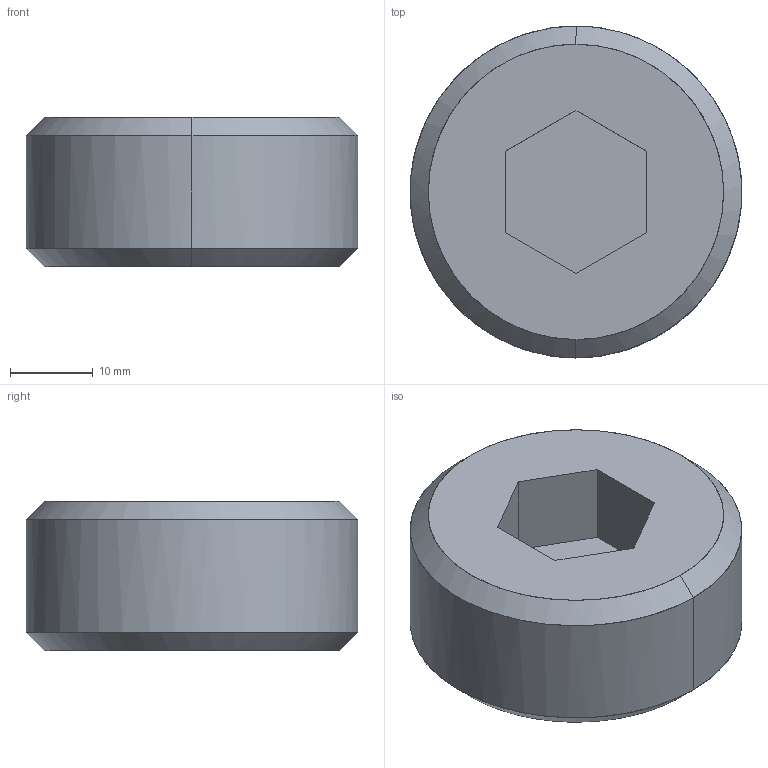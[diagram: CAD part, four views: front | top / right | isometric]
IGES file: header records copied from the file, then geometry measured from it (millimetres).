
Global section: file name: E:\UnigraphicsGraphicData\MISUMI_PRESS-PARTS\IGES\3d_msw40_00517_r00.igs; native system: NX V5.0; preprocessor: UGS NX IGES V5.0; author: MISUMI; date: 20110105.161523; units: millimetre
Bounding box: 39.96 x 40 x 18 mm (x, y, z)
Surface area: 5028 mm2 (no closed solid volume)
Topology: 0 solids, 0 shells, 15 faces, 92 edges, 92 vertices
Faces by surface type: bspline 15
